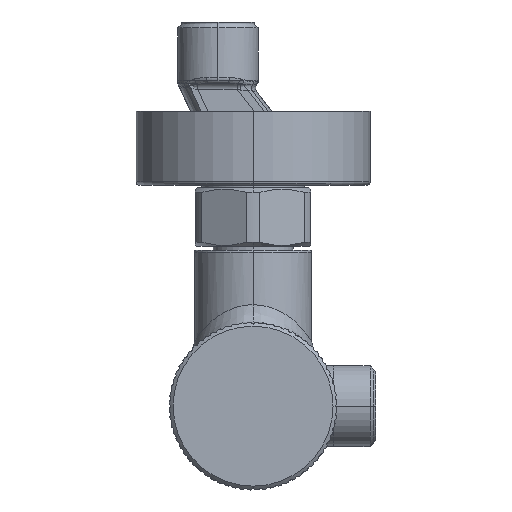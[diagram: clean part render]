
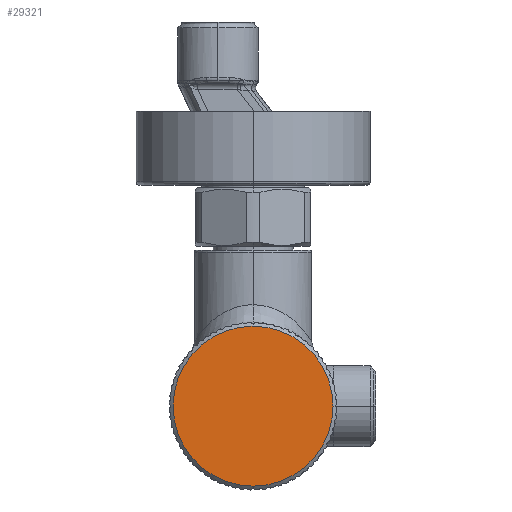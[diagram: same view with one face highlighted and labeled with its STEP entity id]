
A CAD part, left-side view. The second image highlights one B-rep face of the part: STEP entity #29321.
In plain terms, the highlighted planar face has unit normal (-1, 0, 0) as drawn and (0, 1, 0) by its records, which use the part's own axes.
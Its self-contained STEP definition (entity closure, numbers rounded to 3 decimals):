
#25054=CARTESIAN_POINT('',(0.,44.,0.));
#25055=DIRECTION('',(0.,1.,0.));
#25056=DIRECTION('',(-1.,0.,0.));
#25057=AXIS2_PLACEMENT_3D('',#25054,#25055,#25056);
#25059=CARTESIAN_POINT('',(0.,44.,0.));
#25060=DIRECTION('',(0.,1.,0.));
#25061=DIRECTION('',(1.,0.,0.));
#25062=AXIS2_PLACEMENT_3D('',#25059,#25060,#25061);
#25988=CARTESIAN_POINT('',(-20.5,44.,0.));
#25989=CARTESIAN_POINT('',(20.5,44.,0.));
#25990=VERTEX_POINT('',#25988);
#25991=VERTEX_POINT('',#25989);
#29312=CARTESIAN_POINT('',(0.,44.,0.));
#29313=DIRECTION('',(0.,-1.,0.));
#29314=DIRECTION('',(-1.,0.,0.));
#29315=AXIS2_PLACEMENT_3D('',#29312,#29313,#29314);
#29316=PLANE('',#29315);
#29317=ORIENTED_EDGE('',*,*,#26930,.F.);
#29318=ORIENTED_EDGE('',*,*,#29206,.F.);
#29319=EDGE_LOOP('',(#29317,#29318));
#29320=FACE_OUTER_BOUND('',#29319,.F.);
#29321=ADVANCED_FACE('',(#29320),#29316,.F.);
#25058=CIRCLE('',#25057,20.5);
#25063=CIRCLE('',#25062,20.5);
#26930=EDGE_CURVE('',#25990,#25991,#25058,.T.);
#29206=EDGE_CURVE('',#25991,#25990,#25063,.T.);
